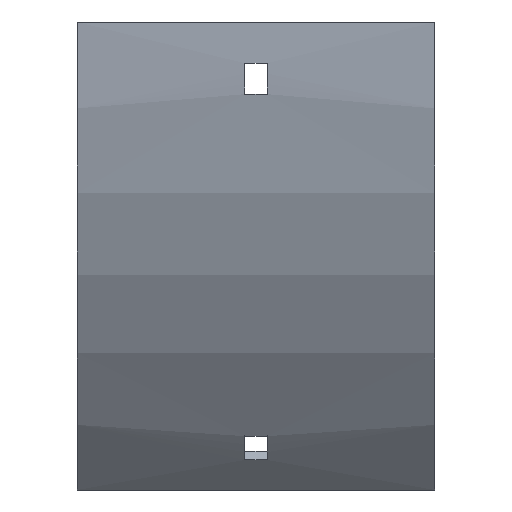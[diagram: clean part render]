
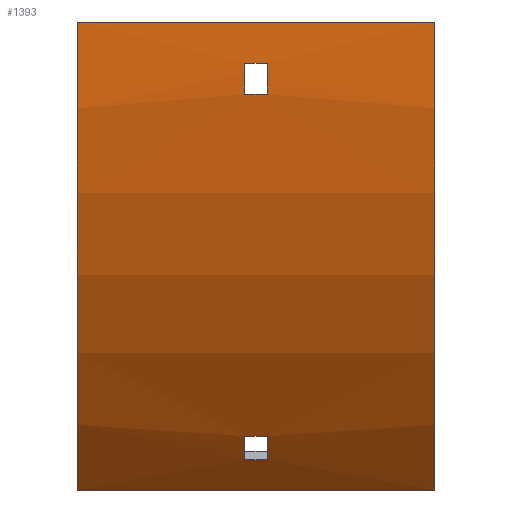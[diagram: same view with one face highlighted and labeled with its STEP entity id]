
A CAD part, front view. The second image highlights one B-rep face of the part: STEP entity #1393.
In plain terms, the highlighted cylindrical face has radius 192.5 mm (diameter 385 mm), a partial arc.
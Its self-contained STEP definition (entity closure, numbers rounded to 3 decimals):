
#23 = ORIENTED_EDGE ( 'NONE', *, *, #1406, .T. ) ;
#36 = CARTESIAN_POINT ( 'NONE',  ( 3.25, -50.155, -120.456 ) ) ;
#49 = VERTEX_POINT ( 'NONE', #236 ) ;
#67 = CYLINDRICAL_SURFACE ( 'NONE', #1273, 192.5 ) ;
#77 = VECTOR ( 'NONE', #1503, 1000. ) ;
#80 = EDGE_CURVE ( 'NONE', #1433, #734, #622, .T. ) ;
#88 = DIRECTION ( 'NONE',  ( 0., 0., 1. ) ) ;
#89 = LINE ( 'NONE', #1001, #937 ) ;
#116 = EDGE_CURVE ( 'NONE', #972, #863, #510, .T. ) ;
#147 = DIRECTION ( 'NONE',  ( 1., 0., 0. ) ) ;
#155 = ORIENTED_EDGE ( 'NONE', *, *, #116, .F. ) ;
#180 = EDGE_CURVE ( 'NONE', #863, #349, #1330, .T. ) ;
#211 = FACE_BOUND ( 'NONE', #497, .T. ) ;
#212 = EDGE_CURVE ( 'NONE', #1049, #49, #545, .T. ) ;
#236 = CARTESIAN_POINT ( 'NONE',  ( -52., -36.118, -136.118 ) ) ;
#239 = ORIENTED_EDGE ( 'NONE', *, *, #1533, .F. ) ;
#250 = CARTESIAN_POINT ( 'NONE',  ( 3.25, 100., 0. ) ) ;
#315 = CARTESIAN_POINT ( 'NONE',  ( -3.25, -44.339, -127.368 ) ) ;
#338 = CIRCLE ( 'NONE', #1246, 192.5 ) ;
#346 = ORIENTED_EDGE ( 'NONE', *, *, #180, .F. ) ;
#349 = VERTEX_POINT ( 'NONE', #315 ) ;
#356 = CARTESIAN_POINT ( 'NONE',  ( 52., 100., 0. ) ) ;
#365 = CIRCLE ( 'NONE', #591, 192.5 ) ;
#369 = VECTOR ( 'NONE', #1213, 1000. ) ;
#377 = DIRECTION ( 'NONE',  ( 0., 0., -1. ) ) ;
#408 = DIRECTION ( 'NONE',  ( -1., 0., 0. ) ) ;
#410 = ORIENTED_EDGE ( 'NONE', *, *, #1460, .F. ) ;
#436 = DIRECTION ( 'NONE',  ( 1., 0., 0. ) ) ;
#440 = ORIENTED_EDGE ( 'NONE', *, *, #1136, .T. ) ;
#449 = CARTESIAN_POINT ( 'NONE',  ( -52., -92.5, 0. ) ) ;
#451 = VECTOR ( 'NONE', #147, 1000. ) ;
#497 = EDGE_LOOP ( 'NONE', ( #346, #155, #239, #801 ) ) ;
#510 = LINE ( 'NONE', #757, #1676 ) ;
#530 = DIRECTION ( 'NONE',  ( 0., 0., 1. ) ) ;
#534 = VERTEX_POINT ( 'NONE', #1331 ) ;
#535 = CARTESIAN_POINT ( 'NONE',  ( 52., -44.339, -127.368 ) ) ;
#545 = LINE ( 'NONE', #670, #595 ) ;
#554 = CARTESIAN_POINT ( 'NONE',  ( 52., -36.118, -136.118 ) ) ;
#570 = AXIS2_PLACEMENT_3D ( 'NONE', #1295, #1162, #377 ) ;
#584 = EDGE_LOOP ( 'NONE', ( #798, #665, #410, #440 ) ) ;
#591 = AXIS2_PLACEMENT_3D ( 'NONE', #356, #762, #1154 ) ;
#595 = VECTOR ( 'NONE', #408, 1000. ) ;
#598 = CARTESIAN_POINT ( 'NONE',  ( -3.25, -92.126, -12. ) ) ;
#622 = CIRCLE ( 'NONE', #1573, 192.5 ) ;
#624 = CARTESIAN_POINT ( 'NONE',  ( 52., 100., 0. ) ) ;
#633 = FACE_OUTER_BOUND ( 'NONE', #584, .T. ) ;
#637 = DIRECTION ( 'NONE',  ( -1., 0., 0. ) ) ;
#660 = EDGE_CURVE ( 'NONE', #349, #783, #694, .T. ) ;
#665 = ORIENTED_EDGE ( 'NONE', *, *, #212, .F. ) ;
#670 = CARTESIAN_POINT ( 'NONE',  ( 52., -36.118, -136.118 ) ) ;
#689 = CARTESIAN_POINT ( 'NONE',  ( -3.25, 100., 0. ) ) ;
#694 = LINE ( 'NONE', #535, #369 ) ;
#706 = LINE ( 'NONE', #1089, #451 ) ;
#714 = VERTEX_POINT ( 'NONE', #449 ) ;
#734 = VERTEX_POINT ( 'NONE', #598 ) ;
#744 = DIRECTION ( 'NONE',  ( -1., 0., 0. ) ) ;
#745 = CARTESIAN_POINT ( 'NONE',  ( -3.25, -50.155, -120.456 ) ) ;
#757 = CARTESIAN_POINT ( 'NONE',  ( 52., -50.155, -120.456 ) ) ;
#760 = AXIS2_PLACEMENT_3D ( 'NONE', #689, #436, #1608 ) ;
#762 = DIRECTION ( 'NONE',  ( 1., 0., 0. ) ) ;
#783 = VERTEX_POINT ( 'NONE', #1097 ) ;
#789 = DIRECTION ( 'NONE',  ( 0., 0., 1. ) ) ;
#798 = ORIENTED_EDGE ( 'NONE', *, *, #1584, .T. ) ;
#801 = ORIENTED_EDGE ( 'NONE', *, *, #660, .F. ) ;
#806 = DIRECTION ( 'NONE',  ( -1., 0., 0. ) ) ;
#852 = EDGE_CURVE ( 'NONE', #534, #1433, #89, .T. ) ;
#863 = VERTEX_POINT ( 'NONE', #745 ) ;
#903 = ORIENTED_EDGE ( 'NONE', *, *, #80, .T. ) ;
#934 = VERTEX_POINT ( 'NONE', #1135 ) ;
#937 = VECTOR ( 'NONE', #1544, 1000. ) ;
#969 = CIRCLE ( 'NONE', #1199, 192.5 ) ;
#972 = VERTEX_POINT ( 'NONE', #36 ) ;
#986 = ORIENTED_EDGE ( 'NONE', *, *, #1039, .T. ) ;
#1001 = CARTESIAN_POINT ( 'NONE',  ( 52., -91.351, -21. ) ) ;
#1009 = FACE_BOUND ( 'NONE', #1307, .T. ) ;
#1039 = EDGE_CURVE ( 'NONE', #734, #934, #706, .T. ) ;
#1049 = VERTEX_POINT ( 'NONE', #554 ) ;
#1089 = CARTESIAN_POINT ( 'NONE',  ( 52., -92.126, -12. ) ) ;
#1097 = CARTESIAN_POINT ( 'NONE',  ( 3.25, -44.339, -127.368 ) ) ;
#1114 = CARTESIAN_POINT ( 'NONE',  ( 52., -92.5, 0. ) ) ;
#1135 = CARTESIAN_POINT ( 'NONE',  ( 3.25, -92.126, -12. ) ) ;
#1136 = EDGE_CURVE ( 'NONE', #1225, #714, #1267, .T. ) ;
#1145 = DIRECTION ( 'NONE',  ( 1., 0., 0. ) ) ;
#1154 = DIRECTION ( 'NONE',  ( 0., 0., -1. ) ) ;
#1162 = DIRECTION ( 'NONE',  ( 1., 0., 0. ) ) ;
#1199 = AXIS2_PLACEMENT_3D ( 'NONE', #1525, #1145, #1636 ) ;
#1213 = DIRECTION ( 'NONE',  ( 1., 0., 0. ) ) ;
#1225 = VERTEX_POINT ( 'NONE', #1669 ) ;
#1246 = AXIS2_PLACEMENT_3D ( 'NONE', #250, #806, #789 ) ;
#1267 = LINE ( 'NONE', #1114, #77 ) ;
#1273 = AXIS2_PLACEMENT_3D ( 'NONE', #624, #744, #88 ) ;
#1295 = CARTESIAN_POINT ( 'NONE',  ( -52., 100., 0. ) ) ;
#1307 = EDGE_LOOP ( 'NONE', ( #1529, #903, #986, #23 ) ) ;
#1330 = CIRCLE ( 'NONE', #760, 192.5 ) ;
#1331 = CARTESIAN_POINT ( 'NONE',  ( 3.25, -91.351, -21. ) ) ;
#1368 = CARTESIAN_POINT ( 'NONE',  ( -3.25, -91.351, -21. ) ) ;
#1379 = CIRCLE ( 'NONE', #570, 192.5 ) ;
#1393 = ADVANCED_FACE ( 'NONE', ( #633, #1009, #211 ), #67, .T. ) ;
#1406 = EDGE_CURVE ( 'NONE', #934, #534, #969, .T. ) ;
#1429 = CARTESIAN_POINT ( 'NONE',  ( -3.25, 100., 0. ) ) ;
#1433 = VERTEX_POINT ( 'NONE', #1368 ) ;
#1460 = EDGE_CURVE ( 'NONE', #1225, #1049, #365, .T. ) ;
#1503 = DIRECTION ( 'NONE',  ( -1., 0., 0. ) ) ;
#1525 = CARTESIAN_POINT ( 'NONE',  ( 3.25, 100., 0. ) ) ;
#1529 = ORIENTED_EDGE ( 'NONE', *, *, #852, .T. ) ;
#1533 = EDGE_CURVE ( 'NONE', #783, #972, #338, .T. ) ;
#1544 = DIRECTION ( 'NONE',  ( -1., 0., 0. ) ) ;
#1573 = AXIS2_PLACEMENT_3D ( 'NONE', #1429, #1659, #530 ) ;
#1584 = EDGE_CURVE ( 'NONE', #714, #49, #1379, .T. ) ;
#1608 = DIRECTION ( 'NONE',  ( 0., 0., -1. ) ) ;
#1636 = DIRECTION ( 'NONE',  ( 0., 0., -1. ) ) ;
#1659 = DIRECTION ( 'NONE',  ( -1., 0., 0. ) ) ;
#1669 = CARTESIAN_POINT ( 'NONE',  ( 52., -92.5, 0. ) ) ;
#1676 = VECTOR ( 'NONE', #637, 1000. ) ;
